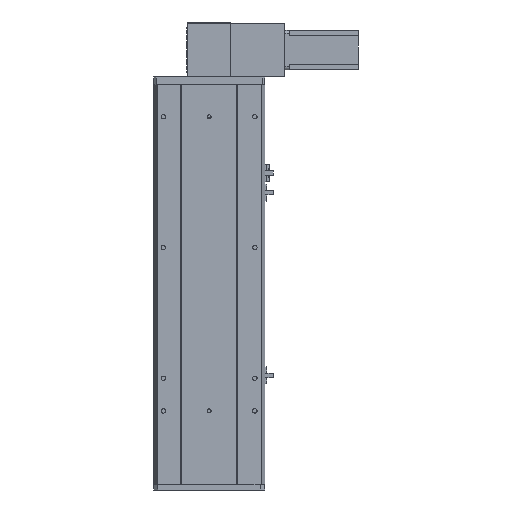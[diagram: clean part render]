
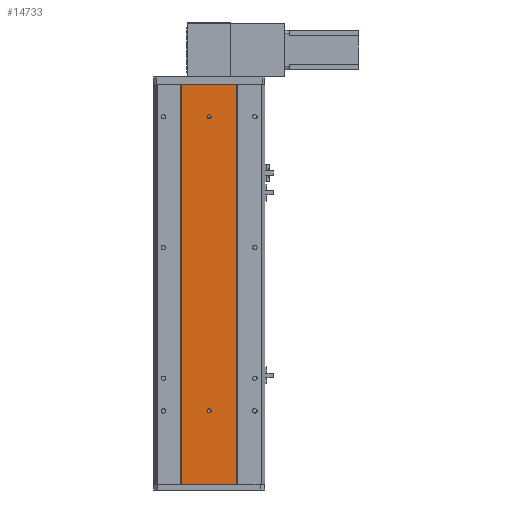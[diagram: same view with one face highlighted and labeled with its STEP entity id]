
A CAD part, front view. The second image highlights one B-rep face of the part: STEP entity #14733.
In plain terms, the highlighted planar face has unit normal (0, -1, 0).
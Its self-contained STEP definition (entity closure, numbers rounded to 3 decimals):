
#162 = VERTEX_POINT ( 'NONE', #20288 ) ;
#798 = VERTEX_POINT ( 'NONE', #13783 ) ;
#1330 = DIRECTION ( 'NONE',  ( 0., 1., 0. ) ) ;
#1344 = CARTESIAN_POINT ( 'NONE',  ( 85., 2.57, 566. ) ) ;
#1663 = VECTOR ( 'NONE', #12374, 1000. ) ;
#2303 = CARTESIAN_POINT ( 'NONE',  ( 42.916, 2.57, 0. ) ) ;
#2343 = LINE ( 'NONE', #7247, #13903 ) ;
#2942 = FACE_BOUND ( 'NONE', #24963, .T. ) ;
#4092 = AXIS2_PLACEMENT_3D ( 'NONE', #5191, #1330, #7006 ) ;
#4479 = CARTESIAN_POINT ( 'NONE',  ( 85., 2.57, 563. ) ) ;
#4731 = VERTEX_POINT ( 'NONE', #1344 ) ;
#5191 = CARTESIAN_POINT ( 'NONE',  ( 42.916, 2.57, 0. ) ) ;
#5342 = CIRCLE ( 'NONE', #15709, 3. ) ;
#5703 = DIRECTION ( 'NONE',  ( 0., 1., 0. ) ) ;
#5925 = EDGE_CURVE ( 'NONE', #23336, #8765, #8137, .T. ) ;
#6666 = DIRECTION ( 'NONE',  ( 0., 0., 1. ) ) ;
#7006 = DIRECTION ( 'NONE',  ( 0., 0., 1. ) ) ;
#7247 = CARTESIAN_POINT ( 'NONE',  ( 126.916, 2.57, 0. ) ) ;
#7501 = AXIS2_PLACEMENT_3D ( 'NONE', #18618, #5703, #20751 ) ;
#8137 = LINE ( 'NONE', #11634, #1663 ) ;
#8713 = FACE_OUTER_BOUND ( 'NONE', #19387, .T. ) ;
#8765 = VERTEX_POINT ( 'NONE', #25886 ) ;
#8794 = ORIENTED_EDGE ( 'NONE', *, *, #25897, .T. ) ;
#9009 = VERTEX_POINT ( 'NONE', #13694 ) ;
#9417 = FACE_BOUND ( 'NONE', #26364, .T. ) ;
#9559 = DIRECTION ( 'NONE',  ( 0., 1., 0. ) ) ;
#10585 = ORIENTED_EDGE ( 'NONE', *, *, #5925, .T. ) ;
#11519 = LINE ( 'NONE', #2303, #12208 ) ;
#11634 = CARTESIAN_POINT ( 'NONE',  ( 42.916, 2.57, 612. ) ) ;
#11682 = CARTESIAN_POINT ( 'NONE',  ( 126.916, 2.57, 612. ) ) ;
#12208 = VECTOR ( 'NONE', #17469, 1000. ) ;
#12291 = ORIENTED_EDGE ( 'NONE', *, *, #14904, .T. ) ;
#12374 = DIRECTION ( 'NONE',  ( -1., 0., 0. ) ) ;
#13694 = CARTESIAN_POINT ( 'NONE',  ( 85., 2.57, 560. ) ) ;
#13783 = CARTESIAN_POINT ( 'NONE',  ( 85., 2.57, 116. ) ) ;
#13825 = VECTOR ( 'NONE', #22623, 1000. ) ;
#13903 = VECTOR ( 'NONE', #17975, 1000. ) ;
#14344 = VERTEX_POINT ( 'NONE', #18012 ) ;
#14372 = ORIENTED_EDGE ( 'NONE', *, *, #26183, .F. ) ;
#14733 = ADVANCED_FACE ( 'NONE', ( #9417, #2942, #8713 ), #18885, .F. ) ;
#14904 = EDGE_CURVE ( 'NONE', #26781, #798, #5342, .T. ) ;
#15504 = CIRCLE ( 'NONE', #25753, 3. ) ;
#15534 = ORIENTED_EDGE ( 'NONE', *, *, #27535, .T. ) ;
#15709 = AXIS2_PLACEMENT_3D ( 'NONE', #22569, #22535, #22468 ) ;
#16217 = CARTESIAN_POINT ( 'NONE',  ( 42.916, 2.57, 0. ) ) ;
#17469 = DIRECTION ( 'NONE',  ( 0., 0., 1. ) ) ;
#17975 = DIRECTION ( 'NONE',  ( 0., 0., 1. ) ) ;
#18012 = CARTESIAN_POINT ( 'NONE',  ( 42.916, 2.57, 0. ) ) ;
#18618 = CARTESIAN_POINT ( 'NONE',  ( 85., 2.57, 113. ) ) ;
#18885 = PLANE ( 'NONE',  #4092 ) ;
#19008 = ORIENTED_EDGE ( 'NONE', *, *, #26234, .T. ) ;
#19387 = EDGE_LOOP ( 'NONE', ( #10585, #26026, #14372, #27126 ) ) ;
#19482 = LINE ( 'NONE', #16217, #13825 ) ;
#19551 = DIRECTION ( 'NONE',  ( 0., 1., 0. ) ) ;
#20288 = CARTESIAN_POINT ( 'NONE',  ( 126.916, 2.57, 0. ) ) ;
#20751 = DIRECTION ( 'NONE',  ( 0., 0., 1. ) ) ;
#21418 = AXIS2_PLACEMENT_3D ( 'NONE', #22378, #9559, #24502 ) ;
#22378 = CARTESIAN_POINT ( 'NONE',  ( 85., 2.57, 563. ) ) ;
#22468 = DIRECTION ( 'NONE',  ( 0., 0., 1. ) ) ;
#22535 = DIRECTION ( 'NONE',  ( 0., 1., 0. ) ) ;
#22569 = CARTESIAN_POINT ( 'NONE',  ( 85., 2.57, 113. ) ) ;
#22623 = DIRECTION ( 'NONE',  ( -1., 0., 0. ) ) ;
#22690 = CARTESIAN_POINT ( 'NONE',  ( 85., 2.57, 110. ) ) ;
#23336 = VERTEX_POINT ( 'NONE', #11682 ) ;
#24419 = EDGE_CURVE ( 'NONE', #162, #23336, #2343, .T. ) ;
#24461 = CIRCLE ( 'NONE', #7501, 3. ) ;
#24502 = DIRECTION ( 'NONE',  ( 0., 0., 1. ) ) ;
#24963 = EDGE_LOOP ( 'NONE', ( #12291, #19008 ) ) ;
#25312 = EDGE_CURVE ( 'NONE', #14344, #8765, #11519, .T. ) ;
#25753 = AXIS2_PLACEMENT_3D ( 'NONE', #4479, #19551, #6666 ) ;
#25886 = CARTESIAN_POINT ( 'NONE',  ( 42.916, 2.57, 612. ) ) ;
#25897 = EDGE_CURVE ( 'NONE', #4731, #9009, #15504, .T. ) ;
#26026 = ORIENTED_EDGE ( 'NONE', *, *, #25312, .F. ) ;
#26183 = EDGE_CURVE ( 'NONE', #162, #14344, #19482, .T. ) ;
#26234 = EDGE_CURVE ( 'NONE', #798, #26781, #24461, .T. ) ;
#26364 = EDGE_LOOP ( 'NONE', ( #15534, #8794 ) ) ;
#26405 = CIRCLE ( 'NONE', #21418, 3. ) ;
#26781 = VERTEX_POINT ( 'NONE', #22690 ) ;
#27126 = ORIENTED_EDGE ( 'NONE', *, *, #24419, .T. ) ;
#27535 = EDGE_CURVE ( 'NONE', #9009, #4731, #26405, .T. ) ;
